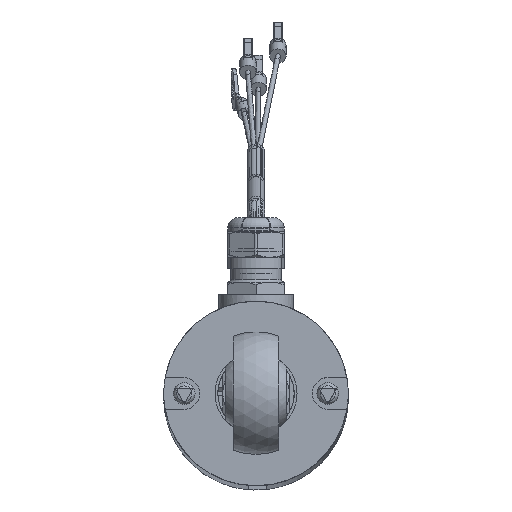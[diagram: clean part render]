
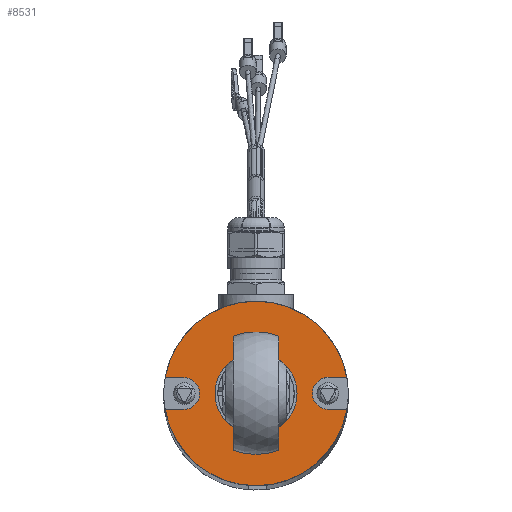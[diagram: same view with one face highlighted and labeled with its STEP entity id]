
A CAD part, top view. The second image highlights one B-rep face of the part: STEP entity #8531.
In plain terms, the highlighted planar face has unit normal (0, 0, 1).
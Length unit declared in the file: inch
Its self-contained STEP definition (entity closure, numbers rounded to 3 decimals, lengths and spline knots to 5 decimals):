
#440=LINE('',#13642,#882);
#443=LINE('',#13648,#885);
#448=LINE('',#13666,#890);
#450=LINE('',#13669,#892);
#882=VECTOR('',#10730,0.3937);
#885=VECTOR('',#10735,0.3937);
#890=VECTOR('',#10756,0.3937);
#892=VECTOR('',#10760,0.3937);
#1481=FACE_BOUND('',#2188,.T.);
#1622=FACE_OUTER_BOUND('',#2187,.T.);
#2187=EDGE_LOOP('',(#5625,#5626,#5627,#5628,#5629,#5630,#5631,#5632,#5633));
#2188=EDGE_LOOP('',(#5634));
#2758=CIRCLE('',#9338,0.70866);
#2769=CIRCLE('',#9357,0.70866);
#2771=CIRCLE('',#9359,0.70866);
#2777=CIRCLE('',#9370,0.12303);
#2779=CIRCLE('',#9374,0.12303);
#2781=CIRCLE('',#9380,0.15945);
#3382=VERTEX_POINT('',#13548);
#3383=VERTEX_POINT('',#13550);
#3398=VERTEX_POINT('',#13615);
#3401=VERTEX_POINT('',#13621);
#3402=VERTEX_POINT('',#13623);
#3408=VERTEX_POINT('',#13641);
#3410=VERTEX_POINT('',#13647);
#3412=VERTEX_POINT('',#13657);
#3413=VERTEX_POINT('',#13658);
#3416=VERTEX_POINT('',#13673);
#4181=EDGE_CURVE('',#3383,#3382,#2758,.T.);
#4205=EDGE_CURVE('',#3398,#3383,#2769,.T.);
#4209=EDGE_CURVE('',#3402,#3401,#2771,.T.);
#4218=EDGE_CURVE('',#3408,#3402,#440,.T.);
#4221=EDGE_CURVE('',#3382,#3410,#443,.T.);
#4224=EDGE_CURVE('',#3410,#3408,#2777,.T.);
#4226=EDGE_CURVE('',#3412,#3413,#2779,.T.);
#4230=EDGE_CURVE('',#3413,#3398,#448,.T.);
#4232=EDGE_CURVE('',#3401,#3412,#450,.T.);
#4234=EDGE_CURVE('',#3416,#3416,#2781,.T.);
#5625=ORIENTED_EDGE('',*,*,#4221,.T.);
#5626=ORIENTED_EDGE('',*,*,#4224,.T.);
#5627=ORIENTED_EDGE('',*,*,#4218,.T.);
#5628=ORIENTED_EDGE('',*,*,#4209,.T.);
#5629=ORIENTED_EDGE('',*,*,#4232,.T.);
#5630=ORIENTED_EDGE('',*,*,#4226,.T.);
#5631=ORIENTED_EDGE('',*,*,#4230,.T.);
#5632=ORIENTED_EDGE('',*,*,#4205,.T.);
#5633=ORIENTED_EDGE('',*,*,#4181,.T.);
#5634=ORIENTED_EDGE('',*,*,#4234,.T.);
#7718=PLANE('',#9379);
#8531=ADVANCED_FACE('',(#1622,#1481),#7718,.T.);
#9338=AXIS2_PLACEMENT_3D('',#13551,#10654,#10655);
#9357=AXIS2_PLACEMENT_3D('',#13616,#10703,#10704);
#9359=AXIS2_PLACEMENT_3D('',#13624,#10709,#10710);
#9370=AXIS2_PLACEMENT_3D('',#13653,#10740,#10741);
#9374=AXIS2_PLACEMENT_3D('',#13659,#10748,#10749);
#9379=AXIS2_PLACEMENT_3D('',#13672,#10764,#10765);
#9380=AXIS2_PLACEMENT_3D('',#13674,#10766,#10767);
#10654=DIRECTION('center_axis',(0.,0.,1.));
#10655=DIRECTION('ref_axis',(1.,0.,0.));
#10703=DIRECTION('center_axis',(0.,0.,1.));
#10704=DIRECTION('ref_axis',(1.,0.,0.));
#10709=DIRECTION('center_axis',(0.,0.,1.));
#10710=DIRECTION('ref_axis',(1.,0.,0.));
#10730=DIRECTION('',(-1.,-0.001,0.));
#10735=DIRECTION('',(1.,0.001,0.));
#10740=DIRECTION('center_axis',(0.,0.,-1.));
#10741=DIRECTION('ref_axis',(-0.001,1.,0.));
#10748=DIRECTION('center_axis',(0.,0.,-1.));
#10749=DIRECTION('ref_axis',(0.001,-1.,0.));
#10756=DIRECTION('',(1.,0.001,0.));
#10760=DIRECTION('',(-1.,-0.001,0.));
#10764=DIRECTION('center_axis',(0.,0.,1.));
#10765=DIRECTION('ref_axis',(1.,0.,0.));
#10766=DIRECTION('center_axis',(0.,0.,-1.));
#10767=DIRECTION('ref_axis',(1.,0.,0.));
#13548=CARTESIAN_POINT('',(-0.69806,0.12214,0.59055));
#13550=CARTESIAN_POINT('',(0.,0.70866,0.59055));
#13551=CARTESIAN_POINT('Origin',(0.,0.,0.59055));
#13615=CARTESIAN_POINT('',(0.69774,0.12392,0.59055));
#13616=CARTESIAN_POINT('Origin',(0.,0.,0.59055));
#13621=CARTESIAN_POINT('',(0.69806,-0.12214,0.59055));
#13623=CARTESIAN_POINT('',(-0.69774,-0.12392,0.59055));
#13624=CARTESIAN_POINT('Origin',(0.,0.,0.59055));
#13641=CARTESIAN_POINT('',(-0.55595,-0.12374,0.59055));
#13642=CARTESIAN_POINT('',(-0.34879,-0.12348,0.59055));
#13647=CARTESIAN_POINT('',(-0.55626,0.12232,0.59055));
#13648=CARTESIAN_POINT('',(-0.27821,0.12268,0.59055));
#13653=CARTESIAN_POINT('Origin',(-0.5561,-0.00071,
0.59055));
#13657=CARTESIAN_POINT('',(0.55626,-0.12232,0.59055));
#13658=CARTESIAN_POINT('',(0.55595,0.12374,0.59055));
#13659=CARTESIAN_POINT('Origin',(0.5561,0.00071,
0.59055));
#13666=CARTESIAN_POINT('',(0.34879,0.12348,0.59055));
#13669=CARTESIAN_POINT('',(0.27821,-0.12268,0.59055));
#13672=CARTESIAN_POINT('Origin',(0.,0.,0.59055));
#13673=CARTESIAN_POINT('',(-0.15945,0.,0.59055));
#13674=CARTESIAN_POINT('Origin',(0.,0.,0.59055));
